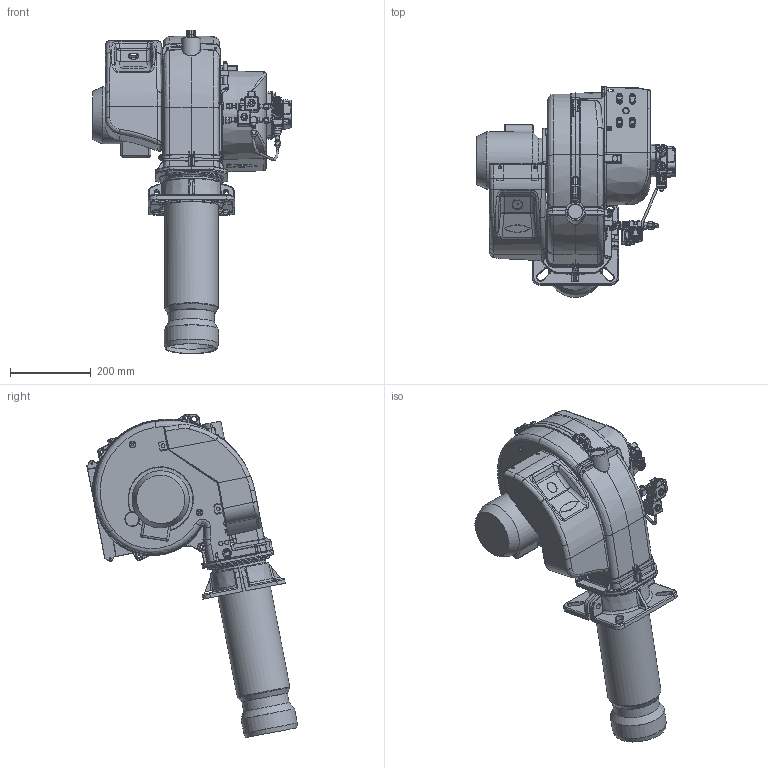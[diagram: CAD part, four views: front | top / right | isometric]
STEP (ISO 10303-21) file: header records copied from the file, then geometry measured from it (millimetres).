
FILE_DESCRIPTION (( 'STEP AP203' ), '1' );
FILE_NAME ('35710010.STEP', '2017-02-16T08:31:32', ( '' ), ( '' ), 'SwSTEP 2.0', 'SolidWorks 2016', '' );
FILE_SCHEMA (( 'CONFIG_CONTROL_DESIGN' ));
Length unit declared in the file: millimetre
Products named in the file (1): 35710010
Bounding box: 492.15 x 522.51 x 802.88 mm (x, y, z)
Surface area: 1576778.8 mm2 (no closed solid volume)
Topology: 0 solids, 138 shells, 2436 faces, 9363 edges, 6779 vertices
Faces by surface type: plane 832, cylinder 725, bspline 585, cone 259, torus 27, sphere 8
Full cylindrical faces by diameter (mm): 3.7 x6, 4 x2, 4.2 x5, 4.6 x2, 5 x3, 5.5 x8, 6 x6, 6.5 x2, 6.75 x2, 7 x9, 7.9 x1, 8 x8, 8.6 x1, 8.8 x5, 9.5 x4, 9.728 x7, 10 x6, 10.4 x2, 10.5 x2, 11.2 x2, 12.8 x4, 13 x5, 13.157 x2, 15 x4, 16 x4, 16.5 x1, 16.7 x1, 20 x1, 21 x1, 36 x1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
Entity records: 181747 total; most frequent: CARTESIAN_POINT 116973, ORIENTED_EDGE 13185, DIRECTION 9479, EDGE_CURVE 8985, VERTEX_POINT 6685, B_SPLINE_CURVE_WITH_KNOTS 4019, LINE 3629, VECTOR 3629
